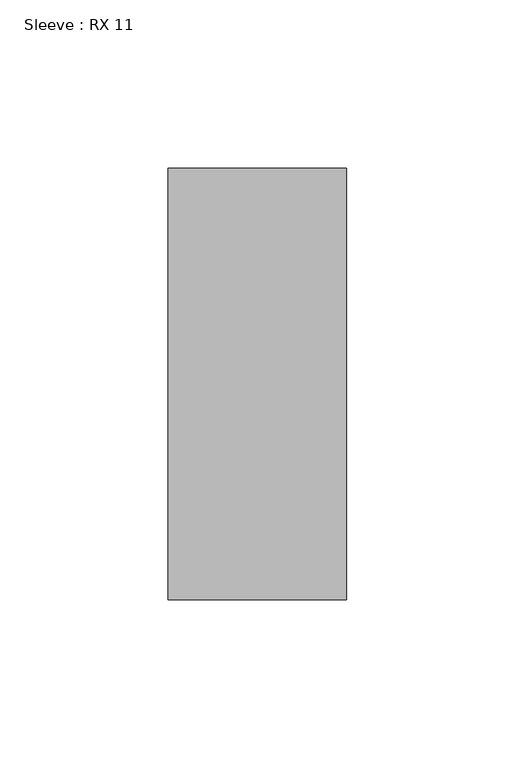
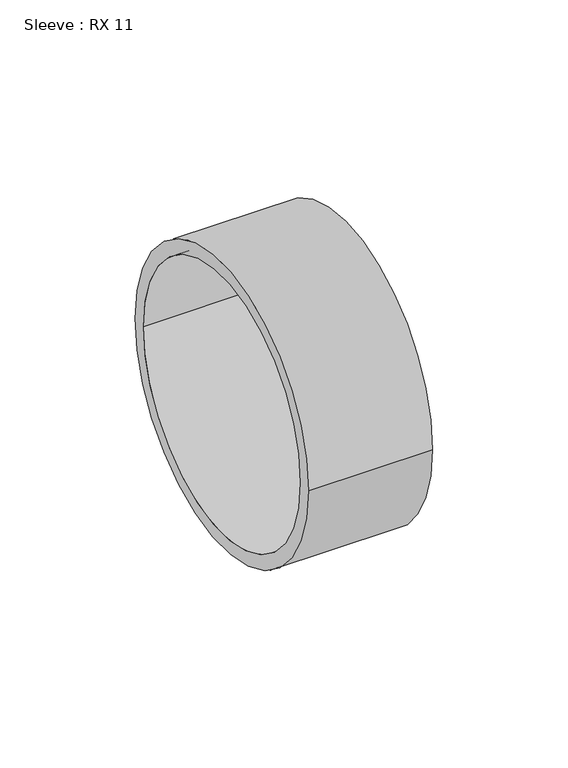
"""IFC4 building model written with IfcOpenShell, lengths in millimetres: pipe fitting geometry, Sleeve : RX 11."""

from ifc_helpers import new_model, si_unit, point, frame, origin, origin_2d, place, context, project, spatial, circle_curve, trimmed, segment, composite_curve, outline, extrude, source, transform, mapped, element, save


def sleeve_rx_11_d7843ee1(model_context):
    return source(origin(), model_context, "Body", "SweptSolid", [
        extrude(outline(composite_curve([segment(trimmed(circle_curve(origin_2d(), 64.0), [point((-64.0, 0.0))], [point((64.0, 0.0))], False, "CARTESIAN"), True, "CONTINUOUS"), segment(trimmed(circle_curve(origin_2d(), 64.0), [point((64.0, 0.0))], [point((-64.0, 0.0))], False, "CARTESIAN"), True, "CONTINUOUS")], self_intersect=False), holes=[composite_curve([segment(trimmed(circle_curve(origin_2d(), 57.95), [point((-57.95, 0.0))], [point((57.95, 0.0))], True, "CARTESIAN"), True, "CONTINUOUS"), segment(trimmed(circle_curve(origin_2d(), 57.95), [point((57.95, 0.0))], [point((-57.95, 0.0))], True, "CARTESIAN"), True, "CONTINUOUS")], self_intersect=False)]), frame((0.0, 0.0, 0.0), z_axis=(1.0, 0.0, 0.0), x_axis=(0.0, 1.0, 0.0)), (0.0, 0.0, 1.0), 53.0),
    ])


if __name__ == "__main__":
    model = new_model("IFC4")
    model_context = context("Model", 3, world=origin())
    ifc_project = project(units=[si_unit("LENGTHUNIT", "METRE", prefix="MILLI")], contexts=[model_context])
    site = spatial("IfcSite", under=ifc_project)
    building = spatial("IfcBuilding", under=site)
    placement = place(None, origin())
    sleeve_rx_11_shape = sleeve_rx_11_d7843ee1(model_context)
    element("IfcPipeFitting", 1, ObjectType="Sleeve : RX 11", at=placement, inside=building, context=model_context, shape_type="MappedRepresentation", body=[
        mapped(sleeve_rx_11_shape, transform((0.0, 0.0, 0.0), x_axis=(1.0, 0.0, 0.0), y_axis=(0.0, 1.0, 0.0), z_axis=(0.0, 0.0, 1.0))),
    ])
    save(model, "model.ifc")
